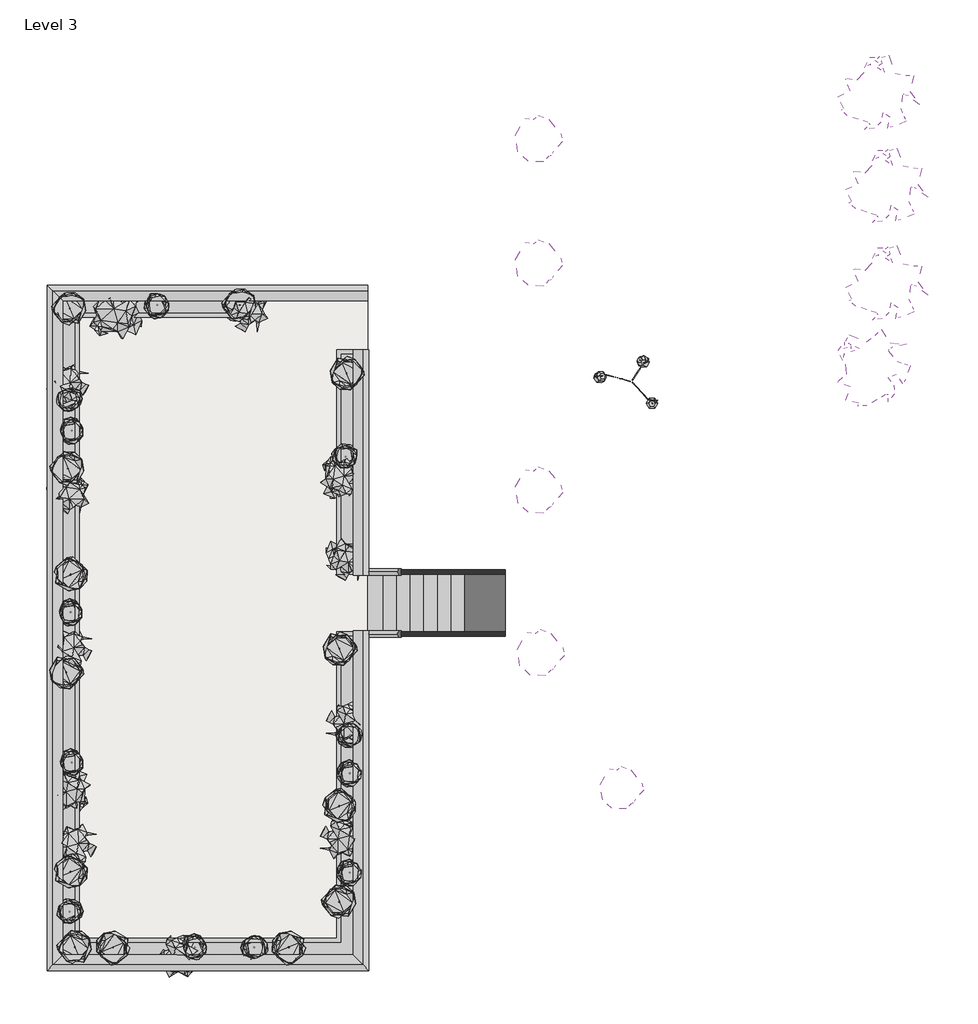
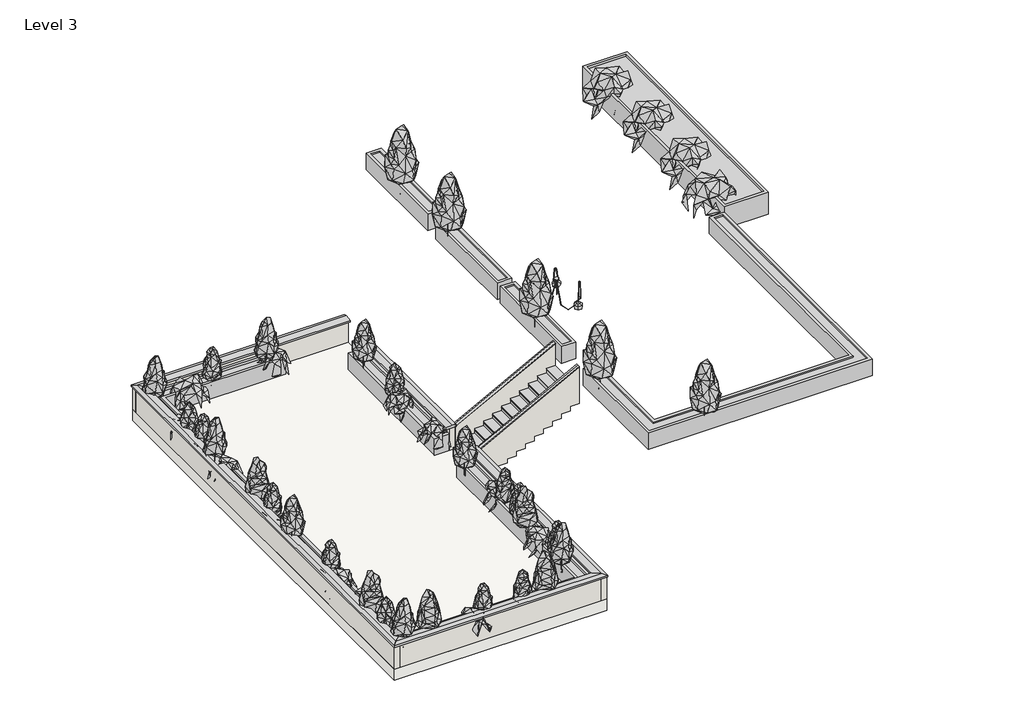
# One storey: 47 geographic elements, 8 proxies, 7 walls, 1 slab, 1 stair flight.
"""IFC4 building model written with IfcOpenShell, lengths in millimetres."""

from ifc_helpers import new_model, si_unit, frame, origin, place, context, project, spatial, polyline, outline, extrude, faceted_brep, transform, mapped, element, save
from components import generic_models_15_generic_models_15_bd427031, generic_models_16_generic_models_15_e595c95c, generic_models_17_generic_models_17_0b87ad0e, geographic_element_4fbb4c08, geographic_element_7a93afb1, geographic_element_81580eb1, geographic_element_8738e9c9, geographic_element_a222e020, geographic_element_f48ce2c9, geographic_element_03524011, enscape_assetdefinition_pendant_lamp_033_enscape_3b239a00

model = new_model("IFC4")

# Units and contexts
model_context = context("Model", 3, world=origin())
ifc_project = project(units=[si_unit("LENGTHUNIT", "METRE", prefix="MILLI")], contexts=[model_context])

# Site, building, storey
site = spatial("IfcSite", under=ifc_project)
building = spatial("IfcBuilding", under=site)
storey = spatial("IfcBuildingStorey", under=building, Name="Level 3", Elevation=5600.0)

# Proxies
placement = place(None, origin())
element("IfcBuildingElementProxy", 1, Name="Wall Sweeps", at=placement, inside=storey, context=model_context, shape_type="Brep", body=[
    faceted_brep([(13012.9337784, -1902.8793342, 6463.5), (13012.9337784, -1902.8793342, 6400.0), (13368.5337784, -2258.4793342, 6400.0), (13368.5337784, -2258.4793342, 6463.5), (13241.5337784, -2131.4793342, 6501.6), (13012.9337784, 5395.457015, 6463.5), (13241.5337784, 5395.457015, 6501.6), (13368.5337784, 5395.457015, 6463.5), (13368.5337784, 5395.457015, 6400.0), (13012.9337784, 5395.457015, 6400.0)], [[[0, 1, 2, 3, 4]], [[5, 6, 7, 8, 9]], [[1, 0, 5, 9]], [[2, 1, 9, 8]], [[3, 2, 8, 7]], [[4, 3, 7, 6]], [[0, 4, 6, 5]]]),
])
element("IfcBuildingElementProxy", 2, Name="Wall Sweeps", at=placement, inside=storey, context=model_context, shape_type="Brep", body=[
    faceted_brep([(13343.1337784, 12836.7206658, 6463.5), (13343.1337784, 12836.7206658, 6400.0), (13343.1337784, 12966.9206658, 6400.0), (13343.1337784, 13166.9206658, 6400.0), (13343.1337784, 13192.3206658, 6400.0), (13343.1337784, 13192.3206658, 6463.5), (13343.1337784, 13065.3206658, 6501.6), (6473.3337784, 12836.7206658, 6463.5), (6244.7337784, 13065.3206658, 6501.6), (6117.7337784, 13192.3206658, 6463.5), (6117.7337784, 13192.3206658, 6400.0), (6473.3337784, 12836.7206658, 6400.0)], [[[0, 1, 2, 3, 4, 5, 6]], [[7, 8, 9, 10, 11]], [[1, 0, 7, 11]], [[4, 3, 2, 1, 11, 10]], [[5, 4, 10, 9]], [[6, 5, 9, 8]], [[0, 6, 8, 7]]]),
])
element("IfcBuildingElementProxy", 3, Name="Wall Sweeps", at=placement, inside=storey, context=model_context, shape_type="Brep", body=[
    faceted_brep([(6473.3337784, 12836.7206658, 6463.5), (6473.3337784, 12836.7206658, 6400.0), (6117.7337784, 13192.3206658, 6400.0), (6117.7337784, 13192.3206658, 6463.5), (6244.7337784, 13065.3206658, 6501.6), (6473.3337784, -1902.8793342, 6463.5), (6244.7337784, -2131.4793342, 6501.6), (6117.7337784, -2258.4793342, 6463.5), (6117.7337784, -2258.4793342, 6400.0), (6473.3337784, -1902.8793342, 6400.0)], [[[0, 1, 2, 3, 4]], [[5, 6, 7, 8, 9]], [[1, 0, 5, 9]], [[2, 1, 9, 8]], [[3, 2, 8, 7]], [[4, 3, 7, 6]], [[0, 4, 6, 5]]]),
])
element("IfcBuildingElementProxy", 4, Name="Wall Sweeps", at=placement, inside=storey, context=model_context, shape_type="Brep", body=[
    faceted_brep([(6473.3337784, -1902.8793342, 6463.5), (6473.3337784, -1902.8793342, 6400.0), (6117.7337784, -2258.4793342, 6400.0), (6117.7337784, -2258.4793342, 6463.5), (6244.7337784, -2131.4793342, 6501.6), (13012.9337784, -1902.8793342, 6463.5), (13241.5337784, -2131.4793342, 6501.6), (13368.5337784, -2258.4793342, 6463.5), (13368.5337784, -2258.4793342, 6400.0), (13012.9337784, -1902.8793342, 6400.0)], [[[0, 1, 2, 3, 4]], [[5, 6, 7, 8, 9]], [[1, 0, 5, 9]], [[2, 1, 9, 8]], [[3, 2, 8, 7]], [[4, 3, 7, 6]], [[0, 4, 6, 5]]]),
])
element("IfcBuildingElementProxy", 5, Name="Wall Sweeps", at=placement, inside=storey, context=model_context, shape_type="Brep", body=[
    faceted_brep([(13012.9337784, 6655.457015, 6463.5), (13012.9337784, 6655.457015, 6400.0), (13368.5337784, 6655.457015, 6400.0), (13368.5337784, 6655.457015, 6463.5), (13241.5337784, 6655.457015, 6501.6), (13012.9337784, 11736.9306658, 6463.5), (13241.5337784, 11736.9306658, 6501.6), (13368.5337784, 11736.9306658, 6463.5), (13368.5337784, 11736.9306658, 6400.0), (13343.1337784, 11736.9306658, 6400.0), (13143.1337784, 11736.9306658, 6400.0), (13012.9337784, 11736.9306658, 6400.0)], [[[0, 1, 2, 3, 4]], [[5, 6, 7, 8, 9, 10, 11]], [[1, 0, 5, 11]], [[2, 1, 11, 10, 9, 8]], [[3, 2, 8, 7]], [[4, 3, 7, 6]], [[0, 4, 6, 5]]]),
])
generic_models_15_generic_models_15_shape = generic_models_15_generic_models_15_bd427031(model_context)
element("IfcBuildingElementProxy", 6, Name="Generic Models 15 : Generic Models 15", ObjectType="Generic Models 15 : Generic Models 15", at=placement, inside=storey, context=model_context, shape_type="MappedRepresentation", body=[
    mapped(generic_models_15_generic_models_15_shape, transform((0.0, 0.0, 0.0), x_axis=(1.0, 0.0, 0.0), y_axis=(0.0, 1.0, 0.0), z_axis=(0.0, 0.0, 1.0))),
])
generic_models_16_generic_models_15_shape = generic_models_16_generic_models_15_e595c95c(model_context)
element("IfcBuildingElementProxy", 7, Name="Generic Models 16 : Generic Models 15", ObjectType="Generic Models 16 : Generic Models 15", at=placement, inside=storey, context=model_context, shape_type="MappedRepresentation", body=[
    mapped(generic_models_16_generic_models_15_shape, transform((0.0, 0.0, 0.0), x_axis=(1.0, 0.0, 0.0), y_axis=(0.0, 1.0, 0.0), z_axis=(0.0, 0.0, 1.0))),
])
generic_models_17_generic_models_17_shape = generic_models_17_generic_models_17_0b87ad0e(model_context)
element("IfcBuildingElementProxy", 8, Name="Generic Models 17 : Generic Models 17", ObjectType="Generic Models 17 : Generic Models 17", at=placement, inside=storey, context=model_context, shape_type="MappedRepresentation", body=[
    mapped(generic_models_17_generic_models_17_shape, transform((0.0, 0.0, 0.0), x_axis=(1.0, 0.0, 0.0), y_axis=(0.0, 1.0, 0.0), z_axis=(0.0, 0.0, 1.0))),
])

# Geographic elements
geographic_element_shape = geographic_element_4fbb4c08(model_context)
element("IfcGeographicElement", 9, ObjectType="Enscape AssetDefinition - Potted Plant 230 Grapevines : Enscape AssetDefinition - Potted Plant 230 Grapevines 2", at=placement, inside=storey, context=model_context, shape_type="MappedRepresentation", body=[
    mapped(geographic_element_shape, transform((12754.0438537, 751.8587836, 6120.0), x_axis=(0.7621481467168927, 0.6474026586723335, 0.0), y_axis=(-0.6474026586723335, 0.7621481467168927, 0.0), z_axis=(0.0, 0.0, 1.0))),
])
element("IfcGeographicElement", 10, ObjectType="Enscape AssetDefinition - Potted Plant 230 Grapevines : Enscape AssetDefinition - Potted Plant 230 Grapevines 2", at=placement, inside=storey, context=model_context, shape_type="MappedRepresentation", body=[
    mapped(geographic_element_shape, transform((12890.1173399, 3348.295574, 6120.0), x_axis=(0.7621481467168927, 0.6474026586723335, 0.0), y_axis=(-0.6474026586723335, 0.7621481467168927, 0.0), z_axis=(0.0, 0.0, 1.0))),
])
element("IfcGeographicElement", 11, ObjectType="Enscape AssetDefinition - Potted Plant 230 Grapevines : Enscape AssetDefinition - Potted Plant 230 Grapevines 2", at=placement, inside=storey, context=model_context, shape_type="MappedRepresentation", body=[
    mapped(geographic_element_shape, transform((12743.1337784, 8845.4500477, 6120.0), x_axis=(-0.7621481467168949, -0.6474026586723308, 0.0), y_axis=(0.6474026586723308, -0.7621481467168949, 0.0), z_axis=(0.0, 0.0, 1.0))),
])
element("IfcGeographicElement", 12, ObjectType="Enscape AssetDefinition - Potted Plant 230 Grapevines : Enscape AssetDefinition - Potted Plant 230 Grapevines 2", at=placement, inside=storey, context=model_context, shape_type="MappedRepresentation", body=[
    mapped(geographic_element_shape, transform((6569.0760412, 8451.8587836, 6120.0), x_axis=(-0.6474026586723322, 0.7621481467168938, 0.0), y_axis=(-0.7621481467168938, -0.6474026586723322, 0.0), z_axis=(0.0, 0.0, 1.0))),
])
element("IfcGeographicElement", 13, ObjectType="Enscape AssetDefinition - Potted Plant 230 Grapevines : Enscape AssetDefinition - Potted Plant 230 Grapevines 2", at=placement, inside=storey, context=model_context, shape_type="MappedRepresentation", body=[
    mapped(geographic_element_shape, transform((6569.0760412, 10951.8587836, 6120.0), x_axis=(-0.7621481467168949, -0.6474026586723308, 0.0), y_axis=(0.6474026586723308, -0.7621481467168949, 0.0), z_axis=(0.0, 0.0, 1.0))),
])
element("IfcGeographicElement", 14, ObjectType="Enscape AssetDefinition - Potted Plant 230 Grapevines : Enscape AssetDefinition - Potted Plant 230 Grapevines 2", at=placement, inside=storey, context=model_context, shape_type="MappedRepresentation", body=[
    mapped(geographic_element_shape, transform((6639.9218916, 4969.9865767, 6120.0), x_axis=(-0.7621481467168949, -0.6474026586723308, 0.0), y_axis=(0.6474026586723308, -0.7621481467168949, 0.0), z_axis=(0.0, 0.0, 1.0))),
])
element("IfcGeographicElement", 15, ObjectType="Enscape AssetDefinition - Potted Plant 230 Grapevines : Enscape AssetDefinition - Potted Plant 230 Grapevines 2", at=placement, inside=storey, context=model_context, shape_type="MappedRepresentation", body=[
    mapped(geographic_element_shape, transform((6743.1337784, 554.3996001, 6120.0), x_axis=(-0.7621481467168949, -0.6474026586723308, 0.0), y_axis=(0.6474026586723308, -0.7621481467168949, 0.0), z_axis=(0.0, 0.0, 1.0))),
])
element("IfcGeographicElement", 16, ObjectType="Enscape AssetDefinition - Potted Plant 230 Grapevines : Enscape AssetDefinition - Potted Plant 230 Grapevines 2", at=placement, inside=storey, context=model_context, shape_type="MappedRepresentation", body=[
    mapped(geographic_element_shape, transform((9043.9497754, -1923.0149506, 6120.0), x_axis=(0.7621481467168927, 0.6474026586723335, 0.0), y_axis=(-0.6474026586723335, 0.7621481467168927, 0.0), z_axis=(0.0, 0.0, 1.0))),
])
element("IfcGeographicElement", 17, ObjectType="Enscape AssetDefinition - Potted Plant 230 Grapevines : Enscape AssetDefinition - Potted Plant 230 Grapevines 2", at=placement, inside=storey, context=model_context, shape_type="MappedRepresentation", body=[
    mapped(geographic_element_shape, transform((6617.9025124, 1812.7702303, 6120.0), x_axis=(0.7621481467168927, 0.6474026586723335, 0.0), y_axis=(-0.6474026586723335, 0.7621481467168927, 0.0), z_axis=(0.0, 0.0, 1.0))),
])
element("IfcGeographicElement", 18, ObjectType="Enscape AssetDefinition - Potted Plant 230 Grapevines : Enscape AssetDefinition - Potted Plant 230 Grapevines 2", at=placement, inside=storey, context=model_context, shape_type="MappedRepresentation", body=[
    mapped(geographic_element_shape, transform((12862.151778, 7017.0105906, 6120.0), x_axis=(-0.6474026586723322, 0.7621481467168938, 0.0), y_axis=(-0.7621481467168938, -0.6474026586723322, 0.0), z_axis=(0.0, 0.0, 1.0))),
])
element("IfcGeographicElement", 19, ObjectType="Enscape AssetDefinition - Potted Plant 230 Grapevines : Enscape AssetDefinition - Potted Plant 230 Grapevines 2", at=placement, inside=storey, context=model_context, shape_type="MappedRepresentation", body=[
    mapped(geographic_element_shape, transform((10602.07623, 12622.1722927, 6120.0), x_axis=(-0.6474026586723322, 0.7621481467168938, 0.0), y_axis=(-0.7621481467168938, -0.6474026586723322, 0.0), z_axis=(0.0, 0.0, 1.0))),
])
geographic_element_2_shape = geographic_element_7a93afb1(model_context)
element("IfcGeographicElement", 20, ObjectType="Enscape AssetDefinition - Potted Plant 230 Grapevines : Enscape AssetDefinition - Potted Plant 230 Grapevines 3", at=placement, inside=storey, context=model_context, shape_type="MappedRepresentation", body=[
    mapped(geographic_element_2_shape, transform((25043.1337784, 13166.9206658, 7891.0211992), x_axis=(-1.0, 0.0, 0.0), y_axis=(0.0, -1.0, 0.0), z_axis=(0.0, 0.0, 1.0))),
])
element("IfcGeographicElement", 21, ObjectType="Enscape AssetDefinition - Potted Plant 230 Grapevines : Enscape AssetDefinition - Potted Plant 230 Grapevines 3", at=placement, inside=storey, context=model_context, shape_type="MappedRepresentation", body=[
    mapped(geographic_element_2_shape, transform((25043.1337784, 15366.9206658, 7891.0211992), x_axis=(-1.0, 0.0, 0.0), y_axis=(0.0, -1.0, 0.0), z_axis=(0.0, 0.0, 1.0))),
])
element("IfcGeographicElement", 22, ObjectType="Enscape AssetDefinition - Potted Plant 230 Grapevines : Enscape AssetDefinition - Potted Plant 230 Grapevines 3", at=placement, inside=storey, context=model_context, shape_type="MappedRepresentation", body=[
    mapped(geographic_element_2_shape, transform((24860.1067186, 17458.9295318, 7891.0211992), x_axis=(-1.0, 0.0, 0.0), y_axis=(0.0, -1.0, 0.0), z_axis=(0.0, 0.0, 1.0))),
])
element("IfcGeographicElement", 23, ObjectType="Enscape AssetDefinition - Potted Plant 230 Grapevines : Enscape AssetDefinition - Potted Plant 230 Grapevines 3", at=placement, inside=storey, context=model_context, shape_type="MappedRepresentation", body=[
    mapped(geographic_element_2_shape, transform((24724.7742265, 11304.5687603, 7891.0211992), x_axis=(-0.6688384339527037, -0.7434077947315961, 0.0), y_axis=(0.7434077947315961, -0.6688384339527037, 0.0), z_axis=(0.0, 0.0, 1.0))),
])
geographic_element_3_shape = geographic_element_81580eb1(model_context)
element("IfcGeographicElement", 24, ObjectType="Enscape AssetDefinition - Coniferous Tree 017 Spruce : Enscape AssetDefinition - Coniferous Tree 017 Spruce 2", at=placement, inside=storey, context=model_context, shape_type="MappedRepresentation", body=[
    mapped(geographic_element_3_shape, transform((17214.172265, 4905.457015, 7400.0), x_axis=(1.0, 0.0, 0.0), y_axis=(0.0, 1.0, 0.0), z_axis=(0.0, 0.0, 1.0))),
])
element("IfcGeographicElement", 25, ObjectType="Enscape AssetDefinition - Coniferous Tree 017 Spruce : Enscape AssetDefinition - Coniferous Tree 017 Spruce 2", at=placement, inside=storey, context=model_context, shape_type="MappedRepresentation", body=[
    mapped(geographic_element_3_shape, transform((17171.7373669, 8571.0902806, 7400.0), x_axis=(1.0, 0.0, 0.0), y_axis=(0.0, 1.0, 0.0), z_axis=(0.0, 0.0, 1.0))),
])
element("IfcGeographicElement", 26, ObjectType="Enscape AssetDefinition - Coniferous Tree 017 Spruce : Enscape AssetDefinition - Coniferous Tree 017 Spruce 2", at=placement, inside=storey, context=model_context, shape_type="MappedRepresentation", body=[
    mapped(geographic_element_3_shape, transform((17169.2294284, 13687.7111918, 7400.0), x_axis=(1.0, 0.0, 0.0), y_axis=(0.0, 1.0, 0.0), z_axis=(0.0, 0.0, 1.0))),
])
element("IfcGeographicElement", 27, ObjectType="Enscape AssetDefinition - Coniferous Tree 017 Spruce : Enscape AssetDefinition - Coniferous Tree 017 Spruce 2", at=placement, inside=storey, context=model_context, shape_type="MappedRepresentation", body=[
    mapped(geographic_element_3_shape, transform((17169.2294284, 16487.7111918, 7400.0), x_axis=(1.0, 0.0, 0.0), y_axis=(0.0, 1.0, 0.0), z_axis=(0.0, 0.0, 1.0))),
])
geographic_element_4_shape = geographic_element_8738e9c9(model_context)
element("IfcGeographicElement", 28, ObjectType="Enscape AssetDefinition - Coniferous Tree 017 Spruce : Enscape AssetDefinition - Coniferous Tree 017 Spruce 3", at=placement, inside=storey, context=model_context, shape_type="MappedRepresentation", body=[
    mapped(geographic_element_4_shape, transform((19043.1337784, 1861.2196026, 7400.0), x_axis=(1.0, 0.0, 0.0), y_axis=(0.0, 1.0, 0.0), z_axis=(0.0, 0.0, 1.0))),
])
geographic_element_5_shape = geographic_element_a222e020(model_context)
element("IfcGeographicElement", 29, ObjectType="Enscape AssetDefinition - Coniferous Tree 017 Spruce : Enscape AssetDefinition - Coniferous Tree 017 Spruce 4", at=placement, inside=storey, context=model_context, shape_type="MappedRepresentation", body=[
    mapped(geographic_element_5_shape, transform((6643.1337784, 6666.9206658, 5839.0743406), x_axis=(0.0, 1.0, 0.0), y_axis=(-1.0, 0.0, 0.0), z_axis=(0.0, 0.0, 1.0))),
])
element("IfcGeographicElement", 30, ObjectType="Enscape AssetDefinition - Coniferous Tree 017 Spruce : Enscape AssetDefinition - Coniferous Tree 017 Spruce 4", at=placement, inside=storey, context=model_context, shape_type="MappedRepresentation", body=[
    mapped(geographic_element_5_shape, transform((6743.1337784, -1733.0793342, 5839.0743406), x_axis=(-1.0, 0.0, 0.0), y_axis=(0.0, -1.0, 0.0), z_axis=(0.0, 0.0, 1.0))),
])
element("IfcGeographicElement", 31, ObjectType="Enscape AssetDefinition - Coniferous Tree 017 Spruce : Enscape AssetDefinition - Coniferous Tree 017 Spruce 4", at=placement, inside=storey, context=model_context, shape_type="MappedRepresentation", body=[
    mapped(geographic_element_5_shape, transform((7603.1337784, -1733.0793342, 5839.0743406), x_axis=(0.0, -1.0, 0.0), y_axis=(1.0, 0.0, 0.0), z_axis=(0.0, 0.0, 1.0))),
])
element("IfcGeographicElement", 32, ObjectType="Enscape AssetDefinition - Coniferous Tree 017 Spruce : Enscape AssetDefinition - Coniferous Tree 017 Spruce 4", at=placement, inside=storey, context=model_context, shape_type="MappedRepresentation", body=[
    mapped(geographic_element_5_shape, transform((11563.1337784, -1733.0793342, 5839.0743406), x_axis=(0.0, -1.0, 0.0), y_axis=(1.0, 0.0, 0.0), z_axis=(0.0, 0.0, 1.0))),
])
element("IfcGeographicElement", 33, ObjectType="Enscape AssetDefinition - Coniferous Tree 017 Spruce : Enscape AssetDefinition - Coniferous Tree 017 Spruce 4", at=placement, inside=storey, context=model_context, shape_type="MappedRepresentation", body=[
    mapped(geographic_element_5_shape, transform((12703.9509841, -705.161704, 5839.0743406), x_axis=(-1.0, 0.0, 0.0), y_axis=(0.0, -1.0, 0.0), z_axis=(0.0, 0.0, 1.0))),
])
element("IfcGeographicElement", 34, ObjectType="Enscape AssetDefinition - Coniferous Tree 017 Spruce : Enscape AssetDefinition - Coniferous Tree 017 Spruce 4", at=placement, inside=storey, context=model_context, shape_type="MappedRepresentation", body=[
    mapped(geographic_element_5_shape, transform((12703.9509841, 4994.838296, 5839.0743406), x_axis=(1.0, 0.0, 0.0), y_axis=(0.0, 1.0, 0.0), z_axis=(0.0, 0.0, 1.0))),
])
element("IfcGeographicElement", 35, ObjectType="Enscape AssetDefinition - Coniferous Tree 017 Spruce : Enscape AssetDefinition - Coniferous Tree 017 Spruce 4", at=placement, inside=storey, context=model_context, shape_type="MappedRepresentation", body=[
    mapped(geographic_element_5_shape, transform((12703.9509841, 1451.2435864, 5839.0743406), x_axis=(0.0, 1.0, 0.0), y_axis=(-1.0, 0.0, 0.0), z_axis=(0.0, 0.0, 1.0))),
])
element("IfcGeographicElement", 36, ObjectType="Enscape AssetDefinition - Coniferous Tree 017 Spruce : Enscape AssetDefinition - Coniferous Tree 017 Spruce 4", at=placement, inside=storey, context=model_context, shape_type="MappedRepresentation", body=[
    mapped(geographic_element_5_shape, transform((12863.1337784, 11206.4728324, 5839.0743406), x_axis=(1.0, 0.0, 0.0), y_axis=(0.0, 1.0, 0.0), z_axis=(0.0, 0.0, 1.0))),
])
element("IfcGeographicElement", 37, ObjectType="Enscape AssetDefinition - Coniferous Tree 017 Spruce : Enscape AssetDefinition - Coniferous Tree 017 Spruce 4", at=placement, inside=storey, context=model_context, shape_type="MappedRepresentation", body=[
    mapped(geographic_element_5_shape, transform((10458.1658121, 12744.8540036, 5839.0743406), x_axis=(-1.0, 0.0, 0.0), y_axis=(0.0, -1.0, 0.0), z_axis=(0.0, 0.0, 1.0))),
])
element("IfcGeographicElement", 38, ObjectType="Enscape AssetDefinition - Coniferous Tree 017 Spruce : Enscape AssetDefinition - Coniferous Tree 017 Spruce 4", at=placement, inside=storey, context=model_context, shape_type="MappedRepresentation", body=[
    mapped(geographic_element_5_shape, transform((6623.1337784, 12666.9206658, 5839.0743406), x_axis=(-1.0, 0.0, 0.0), y_axis=(0.0, -1.0, 0.0), z_axis=(0.0, 0.0, 1.0))),
])
element("IfcGeographicElement", 39, ObjectType="Enscape AssetDefinition - Coniferous Tree 017 Spruce : Enscape AssetDefinition - Coniferous Tree 017 Spruce 4", at=placement, inside=storey, context=model_context, shape_type="MappedRepresentation", body=[
    mapped(geographic_element_5_shape, transform((6583.1337784, 9056.9206658, 5839.0743406), x_axis=(-1.0, 0.0, 0.0), y_axis=(0.0, -1.0, 0.0), z_axis=(0.0, 0.0, 1.0))),
])
element("IfcGeographicElement", 40, ObjectType="Enscape AssetDefinition - Coniferous Tree 017 Spruce : Enscape AssetDefinition - Coniferous Tree 017 Spruce 4", at=placement, inside=storey, context=model_context, shape_type="MappedRepresentation", body=[
    mapped(geographic_element_5_shape, transform((6543.1337784, 4466.9206658, 5839.0743406), x_axis=(1.0, 0.0, 0.0), y_axis=(0.0, 1.0, 0.0), z_axis=(0.0, 0.0, 1.0))),
])
element("IfcGeographicElement", 41, ObjectType="Enscape AssetDefinition - Coniferous Tree 017 Spruce : Enscape AssetDefinition - Coniferous Tree 017 Spruce 4", at=placement, inside=storey, context=model_context, shape_type="MappedRepresentation", body=[
    mapped(geographic_element_5_shape, transform((6643.1337784, -33.0793342, 5839.0743406), x_axis=(0.0, 1.0, 0.0), y_axis=(-1.0, 0.0, 0.0), z_axis=(0.0, 0.0, 1.0))),
])
geographic_element_6_shape = geographic_element_f48ce2c9(model_context)
element("IfcGeographicElement", 42, ObjectType="Enscape AssetDefinition - Coniferous Tree 015 Spruce : Enscape AssetDefinition - Coniferous Tree 015 Spruce 4", at=placement, inside=storey, context=model_context, shape_type="MappedRepresentation", body=[
    mapped(geographic_element_6_shape, transform((8598.1658121, 12744.8540036, 5839.0743406), x_axis=(0.0, -1.0, 0.0), y_axis=(1.0, 0.0, 0.0), z_axis=(0.0, 0.0, 1.0))),
])
element("IfcGeographicElement", 43, ObjectType="Enscape AssetDefinition - Coniferous Tree 015 Spruce : Enscape AssetDefinition - Coniferous Tree 015 Spruce 4", at=placement, inside=storey, context=model_context, shape_type="MappedRepresentation", body=[
    mapped(geographic_element_6_shape, transform((6606.7306007, 10609.3011949, 5839.0743406), x_axis=(-1.0, 0.0, 0.0), y_axis=(0.0, -1.0, 0.0), z_axis=(0.0, 0.0, 1.0))),
])
element("IfcGeographicElement", 44, ObjectType="Enscape AssetDefinition - Coniferous Tree 015 Spruce : Enscape AssetDefinition - Coniferous Tree 015 Spruce 4", at=placement, inside=storey, context=model_context, shape_type="MappedRepresentation", body=[
    mapped(geographic_element_6_shape, transform((6667.7396206, 9911.9649062, 5839.0743406), x_axis=(0.0, -1.0, 0.0), y_axis=(1.0, 0.0, 0.0), z_axis=(0.0, 0.0, 1.0))),
])
element("IfcGeographicElement", 45, ObjectType="Enscape AssetDefinition - Coniferous Tree 015 Spruce : Enscape AssetDefinition - Coniferous Tree 015 Spruce 4", at=placement, inside=storey, context=model_context, shape_type="MappedRepresentation", body=[
    mapped(geographic_element_6_shape, transform((6643.1337784, 5816.9206658, 5839.0743406), x_axis=(0.0, -1.0, 0.0), y_axis=(1.0, 0.0, 0.0), z_axis=(0.0, 0.0, 1.0))),
])
element("IfcGeographicElement", 46, ObjectType="Enscape AssetDefinition - Coniferous Tree 015 Spruce : Enscape AssetDefinition - Coniferous Tree 015 Spruce 4", at=placement, inside=storey, context=model_context, shape_type="MappedRepresentation", body=[
    mapped(geographic_element_6_shape, transform((6667.7396206, 2431.9649062, 5839.0743406), x_axis=(0.0, -1.0, 0.0), y_axis=(1.0, 0.0, 0.0), z_axis=(0.0, 0.0, 1.0))),
])
element("IfcGeographicElement", 47, ObjectType="Enscape AssetDefinition - Coniferous Tree 015 Spruce : Enscape AssetDefinition - Coniferous Tree 015 Spruce 4", at=placement, inside=storey, context=model_context, shape_type="MappedRepresentation", body=[
    mapped(geographic_element_6_shape, transform((6623.1337784, -933.0793342, 5839.0743406), x_axis=(-1.0, 0.0, 0.0), y_axis=(0.0, -1.0, 0.0), z_axis=(0.0, 0.0, 1.0))),
])
element("IfcGeographicElement", 48, ObjectType="Enscape AssetDefinition - Coniferous Tree 015 Spruce : Enscape AssetDefinition - Coniferous Tree 015 Spruce 4", at=placement, inside=storey, context=model_context, shape_type="MappedRepresentation", body=[
    mapped(geographic_element_6_shape, transform((9443.1337784, -1733.0793342, 5839.0743406), x_axis=(0.0, -1.0, 0.0), y_axis=(1.0, 0.0, 0.0), z_axis=(0.0, 0.0, 1.0))),
])
element("IfcGeographicElement", 49, ObjectType="Enscape AssetDefinition - Coniferous Tree 015 Spruce : Enscape AssetDefinition - Coniferous Tree 015 Spruce 4", at=placement, inside=storey, context=model_context, shape_type="MappedRepresentation", body=[
    mapped(geographic_element_6_shape, transform((10783.1337784, -1733.0793342, 5839.0743406), x_axis=(1.0, 0.0, 0.0), y_axis=(0.0, 1.0, 0.0), z_axis=(0.0, 0.0, 1.0))),
])
element("IfcGeographicElement", 50, ObjectType="Enscape AssetDefinition - Coniferous Tree 015 Spruce : Enscape AssetDefinition - Coniferous Tree 015 Spruce 4", at=placement, inside=storey, context=model_context, shape_type="MappedRepresentation", body=[
    mapped(geographic_element_6_shape, transform((12939.1548918, -50.1588596, 5839.0743406), x_axis=(0.0, -1.0, 0.0), y_axis=(1.0, 0.0, 0.0), z_axis=(0.0, 0.0, 1.0))),
])
element("IfcGeographicElement", 51, ObjectType="Enscape AssetDefinition - Coniferous Tree 015 Spruce : Enscape AssetDefinition - Coniferous Tree 015 Spruce 4", at=placement, inside=storey, context=model_context, shape_type="MappedRepresentation", body=[
    mapped(geographic_element_6_shape, transform((12939.1548918, 3049.8411404, 5839.0743406), x_axis=(1.0, 0.0, 0.0), y_axis=(0.0, 1.0, 0.0), z_axis=(0.0, 0.0, 1.0))),
])
element("IfcGeographicElement", 52, ObjectType="Enscape AssetDefinition - Coniferous Tree 015 Spruce : Enscape AssetDefinition - Coniferous Tree 015 Spruce 4", at=placement, inside=storey, context=model_context, shape_type="MappedRepresentation", body=[
    mapped(geographic_element_6_shape, transform((12843.1337784, 9325.457015, 5839.0743406), x_axis=(-1.0, 0.0, 0.0), y_axis=(0.0, -1.0, 0.0), z_axis=(0.0, 0.0, 1.0))),
])
element("IfcGeographicElement", 53, ObjectType="Enscape AssetDefinition - Coniferous Tree 015 Spruce : Enscape AssetDefinition - Coniferous Tree 015 Spruce 4", at=placement, inside=storey, context=model_context, shape_type="MappedRepresentation", body=[
    mapped(geographic_element_6_shape, transform((12939.1548918, 2189.8411404, 5839.0743406), x_axis=(0.0, -1.0, 0.0), y_axis=(1.0, 0.0, 0.0), z_axis=(0.0, 0.0, 1.0))),
])
geographic_element_7_shape = geographic_element_03524011(model_context)
element("IfcGeographicElement", 54, ObjectType="Enscape AssetDefinition - Potted Plant 230 Grapevines : Enscape AssetDefinition - Potted Plant 230 Grapevines 4", at=placement, inside=storey, context=model_context, shape_type="MappedRepresentation", body=[
    mapped(geographic_element_7_shape, transform((7674.9464835, 12566.9206658, 6029.6343315), x_axis=(0.6474026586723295, -0.762148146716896, 0.0), y_axis=(0.762148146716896, 0.6474026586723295, 0.0), z_axis=(0.0, 0.0, 1.0))),
])
enscape_assetdefinition_pendant_lamp_033_enscape_shape = enscape_assetdefinition_pendant_lamp_033_enscape_3b239a00(model_context)
element("IfcGeographicElement", 55, ObjectType="Enscape AssetDefinition - Pendant Lamp 033 : Enscape AssetDefinition - Pendant Lamp 033", at=placement, inside=storey, context=model_context, shape_type="MappedRepresentation", body=[
    mapped(enscape_assetdefinition_pendant_lamp_033_enscape_shape, transform((19293.1337784, 11016.9206658, 7000.0), x_axis=(1.0, 0.0, 0.0), y_axis=(0.0, 1.0, 0.0), z_axis=(0.0, 0.0, 1.0))),
])

# Slab
element("IfcSlab", 56, ObjectType="Concrete Slab - 6\"", at=placement, inside=storey, context=model_context, shape_type="Brep", body=[
    faceted_brep([(6143.1337784, 13166.9206658, 5200.0), (6343.1337784, 13166.9206658, 5200.0), (13343.1337784, 13166.9206658, 5200.0), (13343.1337784, -2233.0793342, 5200.0), (6343.1337784, -2233.0793342, 5200.0), (6143.1337784, -2233.0793342, 5200.0), (6143.1337784, 5416.9206658, 5200.0), (6143.1337784, 10566.9206658, 5200.0), (6143.1337784, 13166.9206658, 5600.0), (6143.1337784, -2233.0793342, 5600.0), (13343.1337784, -2233.0793342, 5600.0), (13343.1337784, 13166.9206658, 5600.0)], [[[0, 1, 2, 3, 4, 5, 6, 7]], [[8, 9, 10, 11]], [[2, 1, 0, 8, 11]], [[3, 2, 11, 10]], [[5, 4, 3, 10, 9]], [[0, 7, 6, 5, 9, 8]]]),
])

# Stair flight
element("IfcStairFlight", 57, ObjectType="3/4\" Nosing", at=placement, inside=storey, context=model_context, shape_type="SolidModel", body=[
    faceted_brep([(13701.4837784, 6675.457015, 5712.8363636), (13349.4837784, 6675.457015, 5712.8363636), (13349.4837784, 5375.457015, 5712.8363636), (13701.4837784, 5375.457015, 5712.8363636), (13701.4837784, 6675.457015, 5600.0), (13349.4837784, 6675.457015, 5600.0), (13349.4837784, 5375.457015, 5600.0), (13701.4837784, 5375.457015, 5600.0), (14001.4837784, 6675.457015, 5600.0), (14006.2837784, 6675.457015, 5600.0), (14306.2837784, 6675.457015, 5600.0), (14306.2837784, 5375.457015, 5600.0), (14006.2837784, 5375.457015, 5600.0), (14001.4837784, 5375.457015, 5600.0), (14306.2837784, 6675.457015, 5740.1090909), (14306.2837784, 5375.457015, 5740.1090909), (14611.0837784, 6675.457015, 5740.1090909), (14611.0837784, 5375.457015, 5740.1090909), (14311.0837784, 5375.457015, 5740.1090909), (14311.0837784, 6675.457015, 5740.1090909), (14611.0837784, 6675.457015, 5903.7454545), (14611.0837784, 5375.457015, 5903.7454545), (14915.8837784, 6675.457015, 5903.7454545), (14915.8837784, 5375.457015, 5903.7454545), (14615.8837784, 5375.457015, 5903.7454545), (14615.8837784, 6675.457015, 5903.7454545), (14915.8837784, 6675.457015, 6067.3818182), (14915.8837784, 5375.457015, 6067.3818182), (15220.6837784, 6675.457015, 6067.3818182), (15220.6837784, 5375.457015, 6067.3818182), (14920.6837784, 5375.457015, 6067.3818182), (14920.6837784, 6675.457015, 6067.3818182), (15220.6837784, 6675.457015, 6231.0181818), (15220.6837784, 5375.457015, 6231.0181818), (15525.4837784, 6675.457015, 6231.0181818), (15525.4837784, 5375.457015, 6231.0181818), (15225.4837784, 5375.457015, 6231.0181818), (15225.4837784, 6675.457015, 6231.0181818), (15525.4837784, 6675.457015, 6394.6545455), (15525.4837784, 5375.457015, 6394.6545455), (15830.2837784, 6675.457015, 6394.6545455), (15830.2837784, 5375.457015, 6394.6545455), (15530.2837784, 5375.457015, 6394.6545455), (15530.2837784, 6675.457015, 6394.6545455), (15830.2837784, 6675.457015, 6558.2909091), (15830.2837784, 5375.457015, 6558.2909091), (16135.0837784, 6675.457015, 6558.2909091), (16135.0837784, 5375.457015, 6558.2909091), (15835.0837784, 5375.457015, 6558.2909091), (15835.0837784, 6675.457015, 6558.2909091), (16135.0837784, 6675.457015, 6721.9272727), (16135.0837784, 5375.457015, 6721.9272727), (16439.8837784, 6675.457015, 6721.9272727), (16439.8837784, 5375.457015, 6721.9272727), (16139.8837784, 5375.457015, 6721.9272727), (16139.8837784, 6675.457015, 6721.9272727), (16439.8837784, 6675.457015, 6885.5636364), (16439.8837784, 5375.457015, 6885.5636364), (16444.6837784, 6675.457015, 6885.5636364), (16743.1337784, 6675.457015, 6885.5636364), (16743.1337784, 5375.457015, 6885.5636364), (16444.6837784, 5375.457015, 6885.5636364), (13701.4837784, 6675.457015, 5876.4727273), (13701.4837784, 5375.457015, 5876.4727273), (14001.4837784, 5375.457015, 5876.4727273), (14006.2837784, 5375.457015, 5876.4727273), (14006.2837784, 6675.457015, 5876.4727273), (14001.4837784, 6675.457015, 5876.4727273), (14311.0837784, 6675.457015, 6040.1090909), (14006.2837784, 6675.457015, 6040.1090909), (14006.2837784, 5375.457015, 6040.1090909), (14311.0837784, 5375.457015, 6040.1090909), (14615.8837784, 6675.457015, 6203.7454545), (14311.0837784, 6675.457015, 6203.7454545), (14311.0837784, 5375.457015, 6203.7454545), (14615.8837784, 5375.457015, 6203.7454545), (14920.6837784, 6675.457015, 6367.3818182), (14615.8837784, 6675.457015, 6367.3818182), (14615.8837784, 5375.457015, 6367.3818182), (14920.6837784, 5375.457015, 6367.3818182), (15225.4837784, 6675.457015, 6531.0181818), (14920.6837784, 6675.457015, 6531.0181818), (14920.6837784, 5375.457015, 6531.0181818), (15225.4837784, 5375.457015, 6531.0181818), (15530.2837784, 6675.457015, 6694.6545455), (15225.4837784, 6675.457015, 6694.6545455), (15225.4837784, 5375.457015, 6694.6545455), (15530.2837784, 5375.457015, 6694.6545455), (15835.0837784, 6675.457015, 6858.2909091), (15530.2837784, 6675.457015, 6858.2909091), (15530.2837784, 5375.457015, 6858.2909091), (15835.0837784, 5375.457015, 6858.2909091), (16139.8837784, 6675.457015, 7021.9272727), (15835.0837784, 6675.457015, 7021.9272727), (15835.0837784, 5375.457015, 7021.9272727), (16139.8837784, 5375.457015, 7021.9272727), (16444.6837784, 6675.457015, 7185.5636364), (16139.8837784, 6675.457015, 7185.5636364), (16139.8837784, 5375.457015, 7185.5636364), (16444.6837784, 5375.457015, 7185.5636364), (16743.1337784, 6675.457015, 7349.2), (16444.6837784, 6675.457015, 7349.2), (16444.6837784, 5375.457015, 7349.2), (16743.1337784, 5375.457015, 7349.2)], [[[0, 1, 2, 3]], [[1, 0, 4, 5]], [[2, 1, 5, 6]], [[3, 2, 6, 7]], [[5, 4, 8, 9, 10, 11, 12, 13, 7, 6]], [[14, 15, 11, 10]], [[16, 17, 18, 15, 14, 19]], [[17, 16, 20, 21]], [[22, 23, 24, 21, 20, 25]], [[23, 22, 26, 27]], [[28, 29, 30, 27, 26, 31]], [[29, 28, 32, 33]], [[34, 35, 36, 33, 32, 37]], [[35, 34, 38, 39]], [[40, 41, 42, 39, 38, 43]], [[41, 40, 44, 45]], [[46, 47, 48, 45, 44, 49]], [[47, 46, 50, 51]], [[52, 53, 54, 51, 50, 55]], [[53, 52, 56, 57]], [[57, 56, 58, 59, 60, 61]], [[62, 63, 64, 65, 66, 67]], [[4, 0, 62, 67, 66, 9, 8]], [[0, 3, 63, 62]], [[3, 7, 13, 12, 65, 64, 63]], [[68, 69, 70, 71]], [[9, 66, 69, 68, 19, 14, 10]], [[66, 65, 70, 69]], [[65, 12, 11, 15, 18, 71, 70]], [[72, 73, 74, 75]], [[73, 72, 25, 20, 16, 19, 68]], [[68, 71, 74, 73]], [[75, 74, 71, 18, 17, 21, 24]], [[76, 77, 78, 79]], [[77, 76, 31, 26, 22, 25, 72]], [[72, 75, 78, 77]], [[79, 78, 75, 24, 23, 27, 30]], [[80, 81, 82, 83]], [[81, 80, 37, 32, 28, 31, 76]], [[76, 79, 82, 81]], [[83, 82, 79, 30, 29, 33, 36]], [[84, 85, 86, 87]], [[85, 84, 43, 38, 34, 37, 80]], [[80, 83, 86, 85]], [[87, 86, 83, 36, 35, 39, 42]], [[88, 89, 90, 91]], [[89, 88, 49, 44, 40, 43, 84]], [[84, 87, 90, 89]], [[91, 90, 87, 42, 41, 45, 48]], [[92, 93, 94, 95]], [[93, 92, 55, 50, 46, 49, 88]], [[88, 91, 94, 93]], [[95, 94, 91, 48, 47, 51, 54]], [[96, 97, 98, 99]], [[97, 96, 58, 56, 52, 55, 92]], [[92, 95, 98, 97]], [[99, 98, 95, 54, 53, 57, 61]], [[100, 101, 102, 103]], [[101, 100, 59, 58, 96]], [[96, 99, 102, 101]], [[103, 102, 99, 61, 60]], [[100, 103, 60, 59]]]),
    extrude(outline(polyline([(13349.4837784, 5375.457015), (13343.1337784, 5375.457015), (13343.1337784, 6675.457015), (13349.4837784, 6675.457015), (13349.4837784, 5375.457015)])), frame((0.0, 0.0, 5600.0), z_axis=(0.0, 0.0, 1.0), x_axis=(1.0, 0.0, 0.0)), (0.0, 0.0, 1.0), 112.8363636),
    extrude(outline(polyline([(13695.1337784, 6675.457015), (13695.1337784, 5375.457015), (13343.1337784, 5375.457015), (13343.1337784, 6675.457015), (13695.1337784, 6675.457015)])), frame((0.0, 0.0, 5712.8363636), z_axis=(0.0, 0.0, 1.0), x_axis=(1.0, 0.0, 0.0)), (0.0, 0.0, 1.0), 50.8),
    extrude(outline(polyline([(13701.4837784, 5375.457015), (13695.1337784, 5375.457015), (13695.1337784, 6675.457015), (13701.4837784, 6675.457015), (13701.4837784, 5375.457015)])), frame((0.0, 0.0, 5712.8363636), z_axis=(0.0, 0.0, 1.0), x_axis=(1.0, 0.0, 0.0)), (0.0, 0.0, 1.0), 163.6363636),
    extrude(outline(polyline([(13999.9337784, 6675.457015), (13999.9337784, 5375.457015), (13695.1337784, 5375.457015), (13695.1337784, 6675.457015), (13999.9337784, 6675.457015)])), frame((0.0, 0.0, 5876.4727273), z_axis=(0.0, 0.0, 1.0), x_axis=(1.0, 0.0, 0.0)), (0.0, 0.0, 1.0), 50.8),
    extrude(outline(polyline([(14006.2837784, 5375.457015), (13999.9337784, 5375.457015), (13999.9337784, 6675.457015), (14006.2837784, 6675.457015), (14006.2837784, 5375.457015)])), frame((0.0, 0.0, 5876.4727273), z_axis=(0.0, 0.0, 1.0), x_axis=(1.0, 0.0, 0.0)), (0.0, 0.0, 1.0), 163.6363636),
    extrude(outline(polyline([(14304.7337784, 6675.457015), (14304.7337784, 5375.457015), (13999.9337784, 5375.457015), (13999.9337784, 6675.457015), (14304.7337784, 6675.457015)])), frame((0.0, 0.0, 6040.1090909), z_axis=(0.0, 0.0, 1.0), x_axis=(1.0, 0.0, 0.0)), (0.0, 0.0, 1.0), 50.8),
    extrude(outline(polyline([(14311.0837784, 5375.457015), (14304.7337784, 5375.457015), (14304.7337784, 6675.457015), (14311.0837784, 6675.457015), (14311.0837784, 5375.457015)])), frame((0.0, 0.0, 6040.1090909), z_axis=(0.0, 0.0, 1.0), x_axis=(1.0, 0.0, 0.0)), (0.0, 0.0, 1.0), 163.6363636),
    extrude(outline(polyline([(14609.5337784, 6675.457015), (14609.5337784, 5375.457015), (14304.7337784, 5375.457015), (14304.7337784, 6675.457015), (14609.5337784, 6675.457015)])), frame((0.0, 0.0, 6203.7454545), z_axis=(0.0, 0.0, 1.0), x_axis=(1.0, 0.0, 0.0)), (0.0, 0.0, 1.0), 50.8),
    extrude(outline(polyline([(14615.8837784, 5375.457015), (14609.5337784, 5375.457015), (14609.5337784, 6675.457015), (14615.8837784, 6675.457015), (14615.8837784, 5375.457015)])), frame((0.0, 0.0, 6203.7454545), z_axis=(0.0, 0.0, 1.0), x_axis=(1.0, 0.0, 0.0)), (0.0, 0.0, 1.0), 163.6363636),
    extrude(outline(polyline([(14914.3337784, 6675.457015), (14914.3337784, 5375.457015), (14609.5337784, 5375.457015), (14609.5337784, 6675.457015), (14914.3337784, 6675.457015)])), frame((0.0, 0.0, 6367.3818182), z_axis=(0.0, 0.0, 1.0), x_axis=(1.0, 0.0, 0.0)), (0.0, 0.0, 1.0), 50.8),
    extrude(outline(polyline([(14920.6837784, 5375.457015), (14914.3337784, 5375.457015), (14914.3337784, 6675.457015), (14920.6837784, 6675.457015), (14920.6837784, 5375.457015)])), frame((0.0, 0.0, 6367.3818182), z_axis=(0.0, 0.0, 1.0), x_axis=(1.0, 0.0, 0.0)), (0.0, 0.0, 1.0), 163.6363636),
    extrude(outline(polyline([(15219.1337784, 6675.457015), (15219.1337784, 5375.457015), (14914.3337784, 5375.457015), (14914.3337784, 6675.457015), (15219.1337784, 6675.457015)])), frame((0.0, 0.0, 6531.0181818), z_axis=(0.0, 0.0, 1.0), x_axis=(1.0, 0.0, 0.0)), (0.0, 0.0, 1.0), 50.8),
    extrude(outline(polyline([(15225.4837784, 5375.457015), (15219.1337784, 5375.457015), (15219.1337784, 6675.457015), (15225.4837784, 6675.457015), (15225.4837784, 5375.457015)])), frame((0.0, 0.0, 6531.0181818), z_axis=(0.0, 0.0, 1.0), x_axis=(1.0, 0.0, 0.0)), (0.0, 0.0, 1.0), 163.6363636),
    extrude(outline(polyline([(15523.9337784, 6675.457015), (15523.9337784, 5375.457015), (15219.1337784, 5375.457015), (15219.1337784, 6675.457015), (15523.9337784, 6675.457015)])), frame((0.0, 0.0, 6694.6545455), z_axis=(0.0, 0.0, 1.0), x_axis=(1.0, 0.0, 0.0)), (0.0, 0.0, 1.0), 50.8),
    extrude(outline(polyline([(15530.2837784, 5375.457015), (15523.9337784, 5375.457015), (15523.9337784, 6675.457015), (15530.2837784, 6675.457015), (15530.2837784, 5375.457015)])), frame((0.0, 0.0, 6694.6545455), z_axis=(0.0, 0.0, 1.0), x_axis=(1.0, 0.0, 0.0)), (0.0, 0.0, 1.0), 163.6363636),
    extrude(outline(polyline([(15828.7337784, 6675.457015), (15828.7337784, 5375.457015), (15523.9337784, 5375.457015), (15523.9337784, 6675.457015), (15828.7337784, 6675.457015)])), frame((0.0, 0.0, 6858.2909091), z_axis=(0.0, 0.0, 1.0), x_axis=(1.0, 0.0, 0.0)), (0.0, 0.0, 1.0), 50.8),
    extrude(outline(polyline([(15835.0837784, 5375.457015), (15828.7337784, 5375.457015), (15828.7337784, 6675.457015), (15835.0837784, 6675.457015), (15835.0837784, 5375.457015)])), frame((0.0, 0.0, 6858.2909091), z_axis=(0.0, 0.0, 1.0), x_axis=(1.0, 0.0, 0.0)), (0.0, 0.0, 1.0), 163.6363636),
    extrude(outline(polyline([(16133.5337784, 6675.457015), (16133.5337784, 5375.457015), (15828.7337784, 5375.457015), (15828.7337784, 6675.457015), (16133.5337784, 6675.457015)])), frame((0.0, 0.0, 7021.9272727), z_axis=(0.0, 0.0, 1.0), x_axis=(1.0, 0.0, 0.0)), (0.0, 0.0, 1.0), 50.8),
    extrude(outline(polyline([(16139.8837784, 5375.457015), (16133.5337784, 5375.457015), (16133.5337784, 6675.457015), (16139.8837784, 6675.457015), (16139.8837784, 5375.457015)])), frame((0.0, 0.0, 7021.9272727), z_axis=(0.0, 0.0, 1.0), x_axis=(1.0, 0.0, 0.0)), (0.0, 0.0, 1.0), 163.6363636),
    extrude(outline(polyline([(16438.3337784, 6675.457015), (16438.3337784, 5375.457015), (16133.5337784, 5375.457015), (16133.5337784, 6675.457015), (16438.3337784, 6675.457015)])), frame((0.0, 0.0, 7185.5636364), z_axis=(0.0, 0.0, 1.0), x_axis=(1.0, 0.0, 0.0)), (0.0, 0.0, 1.0), 50.8),
    extrude(outline(polyline([(16444.6837784, 5375.457015), (16438.3337784, 5375.457015), (16438.3337784, 6675.457015), (16444.6837784, 6675.457015), (16444.6837784, 5375.457015)])), frame((0.0, 0.0, 7185.5636364), z_axis=(0.0, 0.0, 1.0), x_axis=(1.0, 0.0, 0.0)), (0.0, 0.0, 1.0), 163.6363636),
    extrude(outline(polyline([(16743.1337784, 6675.457015), (16743.1337784, 5375.457015), (16438.3337784, 5375.457015), (16438.3337784, 6675.457015), (16743.1337784, 6675.457015)])), frame((0.0, 0.0, 7349.2), z_axis=(0.0, 0.0, 1.0), x_axis=(1.0, 0.0, 0.0)), (0.0, 0.0, 1.0), 50.8),
])

# Walls
element("IfcWall", 58, ObjectType="جان پناه", at=placement, inside=storey, context=model_context, shape_type="Brep", body=[
    faceted_brep([(13343.1337784, -2233.0793342, 5600.0), (13343.1337784, 5275.457015, 5600.0), (13343.1337784, 5275.457015, 6400.0), (13343.1337784, -2233.0793342, 6400.0), (13143.1337784, -2233.0793342, 5600.0), (13143.1337784, -2233.0793342, 6400.0), (13143.1337784, -2033.0793342, 6400.0), (13143.1337784, 5275.457015, 6400.0), (13143.1337784, 5275.457015, 5600.0), (13143.1337784, -2033.0793342, 5600.0)], [[[0, 1, 2, 3]], [[4, 5, 6, 7, 8, 9]], [[1, 0, 4, 9, 8]], [[3, 2, 7, 6, 5]], [[0, 3, 5, 4]], [[2, 1, 8, 7]]]),
])
element("IfcWall", 59, ObjectType="جان پناه", at=placement, inside=storey, context=model_context, shape_type="Brep", body=[
    faceted_brep([(13343.1337784, 13166.9206658, 5600.0), (6143.1337784, 13166.9206658, 5600.0), (6143.1337784, 13166.9206658, 6400.0), (13343.1337784, 13166.9206658, 6400.0), (13343.1337784, 12966.9206658, 5600.0), (13343.1337784, 12966.9206658, 6400.0), (6343.1337784, 12966.9206658, 6400.0), (6143.1337784, 12966.9206658, 6400.0), (6143.1337784, 12966.9206658, 5600.0), (6343.1337784, 12966.9206658, 5600.0)], [[[0, 1, 2, 3]], [[4, 5, 6, 7, 8, 9]], [[1, 0, 4, 9, 8]], [[3, 2, 7, 6, 5]], [[0, 3, 5, 4]], [[2, 1, 8, 7]]]),
])
element("IfcWall", 60, ObjectType="جان پناه", at=placement, inside=storey, context=model_context, shape_type="Brep", body=[
    faceted_brep([(6143.1337784, 12966.9206658, 5600.0), (6143.1337784, -2233.0793342, 5600.0), (6143.1337784, -2233.0793342, 6400.0), (6143.1337784, 12966.9206658, 6400.0), (6343.1337784, 12966.9206658, 5600.0), (6343.1337784, 12966.9206658, 6400.0), (6343.1337784, -2033.0793342, 6400.0), (6343.1337784, -2233.0793342, 6400.0), (6343.1337784, -2233.0793342, 5600.0), (6343.1337784, -2033.0793342, 5600.0)], [[[0, 1, 2, 3]], [[4, 5, 6, 7, 8, 9]], [[1, 0, 4, 9, 8]], [[3, 2, 7, 6, 5]], [[0, 3, 5, 4]], [[2, 1, 8, 7]]]),
])
element("IfcWall", 61, ObjectType="جان پناه", at=placement, inside=storey, context=model_context, shape_type="SweptSolid", body=[
    extrude(outline(polyline([(13143.1337784, -2233.0793342), (6343.1337784, -2233.0793342), (6343.1337784, -2033.0793342), (13143.1337784, -2033.0793342), (13143.1337784, -2233.0793342)])), frame((0.0, 0.0, 5600.0), z_axis=(0.0, 0.0, 1.0), x_axis=(1.0, 0.0, 0.0)), (0.0, 0.0, 1.0), 800.0),
])
element("IfcWall", 62, ObjectType="جان پناه", at=placement, inside=storey, context=model_context, shape_type="SweptSolid", body=[
    extrude(outline(polyline([(13343.1337784, 11736.9306658), (13343.1337784, 6675.457015), (13143.1337784, 6675.457015), (13143.1337784, 11736.9306658), (13343.1337784, 11736.9306658)])), frame((0.0, 0.0, 5600.0), z_axis=(0.0, 0.0, 1.0), x_axis=(1.0, 0.0, 0.0)), (0.0, 0.0, 1.0), 800.0),
])
element("IfcWall", 63, ObjectType="Generic - 5 cm", at=placement, inside=storey, context=model_context, shape_type="SweptSolid", body=[
    extrude(outline(polyline([(5600.0, 13343.1337784), (5600.0, 14306.2837784), (5740.1090909, 14306.2837784), (5740.1090909, 14611.0837784), (5903.7454545, 14611.0837784), (5903.7454545, 14915.8837784), (6067.3818182, 14915.8837784), (6067.3818182, 15220.6837784), (6231.0181818, 15220.6837784), (6231.0181818, 15525.4837784), (6394.6545455, 15525.4837784), (6394.6545455, 15830.2837784), (6558.2909091, 15830.2837784), (6558.2909091, 16135.0837784), (6721.9272727, 16135.0837784), (6721.9272727, 16439.8837784), (6885.5636364, 16439.8837784), (6885.5636364, 16743.1337784), (8200.0, 16743.1337784), (6413.4470588, 13368.5337784), (6400.0, 13368.5337784), (6400.0, 13343.1337784), (5600.0, 13343.1337784)])), frame((0.0, 6675.457015, 0.0), z_axis=(0.0, 1.0, 0.0), x_axis=(0.0, 0.0, 1.0)), (0.0, 0.0, 1.0), 100.0),
])
element("IfcWall", 64, ObjectType="Generic - 5 cm", at=placement, inside=storey, context=model_context, shape_type="SweptSolid", body=[
    extrude(outline(polyline([(5600.0, 13343.1337784), (5600.0, 14306.2837784), (5740.1090909, 14306.2837784), (5740.1090909, 14611.0837784), (5903.7454545, 14611.0837784), (5903.7454545, 14915.8837784), (6067.3818182, 14915.8837784), (6067.3818182, 15220.6837784), (6231.0181818, 15220.6837784), (6231.0181818, 15525.4837784), (6394.6545455, 15525.4837784), (6394.6545455, 15830.2837784), (6558.2909091, 15830.2837784), (6558.2909091, 16135.0837784), (6721.9272727, 16135.0837784), (6721.9272727, 16439.8837784), (6885.5636364, 16439.8837784), (6885.5636364, 16743.1337784), (8200.0, 16743.1337784), (6413.4470588, 13368.5337784), (6400.0, 13368.5337784), (6400.0, 13343.1337784), (5600.0, 13343.1337784)])), frame((0.0, 5275.457015, 0.0), z_axis=(0.0, 1.0, 0.0), x_axis=(0.0, 0.0, 1.0)), (0.0, 0.0, 1.0), 100.0),
])

save(model, "model.ifc")
